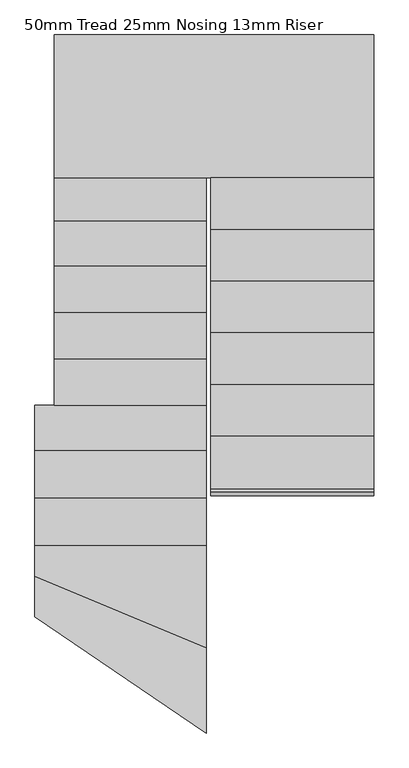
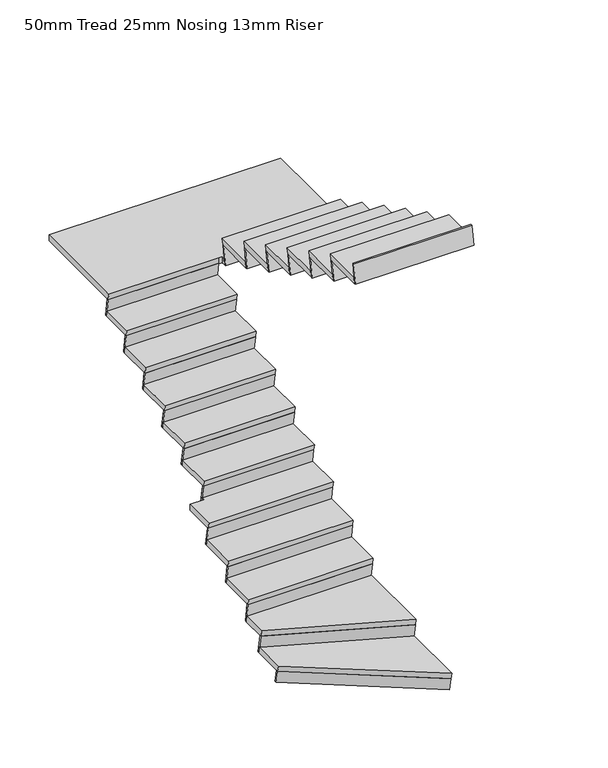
"""IFC4 building model written with IfcOpenShell, lengths in millimetres: stair flight geometry, 50mm Tread 25mm Nosing 13mm Riser."""

from ifc_helpers import new_model, si_unit, origin, place, context, project, spatial, faceted_brep, source, transform, mapped, element, save


def stair_flight_50mm_tread_25mm_nosing_13mm_riser_cc5dda1c(model_context):
    return source(origin(), model_context, "Body", "Brep", [
        faceted_brep([(-845.4255931, -4341.3934416, -2686.7555556), (-845.4255931, -4332.8197733, -2736.7555556), (-1855.0755931, -3910.3421138, -2736.7555556), (-1855.0755931, -3918.915782, -2686.7555556), (-1855.0755931, -4184.3438544, -2686.7555556), (-845.4255931, -4870.3265882, -2686.7555556), (-845.4255931, -4860.7646039, -2736.7555556), (-1855.0755931, -4174.7818701, -2736.7555556)], [[[0, 1, 2, 3]], [[3, 4, 5, 0]], [[2, 1, 6, 7]], [[4, 3, 2, 7]], [[0, 5, 6, 1]], [[5, 4, 7, 6]]]),
        faceted_brep([(-845.4255931, -4860.7646039, -2736.7555556), (-845.4255931, -4840.1022183, -2844.8), (-845.4255931, -4824.8021332, -2844.8), (-845.4255931, -4845.4645188, -2736.7555556), (-1855.0755931, -4174.7818701, -2736.7555556), (-1855.0755931, -4159.4817849, -2736.7555556), (-1855.0755931, -4138.8193993, -2844.8), (-1855.0755931, -4154.1194845, -2844.8)], [[[0, 1, 2, 3]], [[4, 5, 6, 7]], [[1, 0, 4, 7]], [[2, 1, 7, 6]], [[3, 2, 6, 5]], [[0, 3, 5, 4]]]),
        faceted_brep([(-845.4255931, -4359.9201861, -2578.7111111), (-845.4255931, -4332.8197733, -2736.7555556), (-845.4255931, -4319.1010879, -2736.7555556), (-845.4255931, -4346.2015007, -2578.7111111), (-1855.0755931, -3937.4425265, -2578.7111111), (-1855.0755931, -3923.7238411, -2578.7111111), (-1855.0755931, -3896.6234283, -2736.7555556), (-1855.0755931, -3910.3421138, -2736.7555556)], [[[0, 1, 2, 3]], [[4, 5, 6, 7]], [[1, 0, 4, 7]], [[2, 1, 7, 6]], [[3, 2, 6, 5]], [[0, 3, 5, 4]]]),
        faceted_brep([(-1855.0755931, -3740.2438544, -2528.7111111), (-1855.0755931, -3946.0161948, -2528.7111111), (-845.4255931, -4368.4938544, -2528.7111111), (-845.4255931, -3740.2438544, -2528.7111111), (-1855.0755931, -3732.3346868, -2578.7111111), (-845.4255931, -3732.3346868, -2578.7111111), (-845.4255931, -4359.9201861, -2578.7111111), (-1855.0755931, -3937.4425265, -2578.7111111)], [[[0, 1, 2, 3]], [[4, 5, 6, 7]], [[1, 0, 4, 7]], [[3, 2, 6, 5]], [[3, 5, 4, 0]], [[2, 1, 7, 6]]]),
        faceted_brep([(-845.4255931, -2112.6846868, -1472.4), (-845.4255931, -2087.6846868, -1630.4444444), (-845.4255931, -2075.0292657, -1630.4444444), (-845.4255931, -2100.0292657, -1472.4), (-1740.7755931, -2112.6846868, -1472.4), (-1740.7755931, -2100.0292657, -1472.4), (-1740.7755931, -2075.0292657, -1630.4444444), (-1740.7755931, -2087.6846868, -1630.4444444)], [[[0, 1, 2, 3]], [[4, 5, 6, 7]], [[1, 0, 4, 7]], [[2, 1, 7, 6]], [[3, 2, 6, 5]], [[0, 3, 5, 4]]]),
        faceted_brep([(-1740.7755931, -1828.8938544, -1422.4), (-1740.7755931, -2120.5938544, -1422.4), (-845.4255931, -2120.5938544, -1422.4), (-845.4255931, -1828.8938544, -1422.4), (-1740.7755931, -1820.9846868, -1472.4), (-845.4255931, -1820.9846868, -1472.4), (-845.4255931, -2112.6846868, -1472.4), (-1740.7755931, -2112.6846868, -1472.4)], [[[0, 1, 2, 3]], [[4, 5, 6, 7]], [[1, 0, 4, 7]], [[3, 2, 6, 5]], [[3, 5, 4, 0]], [[2, 1, 7, 6]]]),
        faceted_brep([(-845.4255931, -1845.9846868, -1314.3555556), (-845.4255931, -1820.9846868, -1472.4), (-845.4255931, -1808.3292657, -1472.4), (-845.4255931, -1833.3292657, -1314.3555556), (-1740.7755931, -1845.9846868, -1314.3555556), (-1740.7755931, -1833.3292657, -1314.3555556), (-1740.7755931, -1808.3292657, -1472.4), (-1740.7755931, -1820.9846868, -1472.4)], [[[0, 1, 2, 3]], [[4, 5, 6, 7]], [[1, 0, 4, 7]], [[2, 1, 7, 6]], [[3, 2, 6, 5]], [[0, 3, 5, 4]]]),
        faceted_brep([(-1740.7755931, -1577.8511592, -1264.3555556), (-1740.7755931, -1853.8938544, -1264.3555556), (-845.4255931, -1853.8938544, -1264.3555556), (-845.4255931, -1577.8511592, -1264.3555556), (-1740.7755931, -1569.9419915, -1314.3555556), (-845.4255931, -1569.9419915, -1314.3555556), (-845.4255931, -1845.9846868, -1314.3555556), (-1740.7755931, -1845.9846868, -1314.3555556)], [[[0, 1, 2, 3]], [[4, 5, 6, 7]], [[1, 0, 4, 7]], [[3, 2, 6, 5]], [[3, 5, 4, 0]], [[2, 1, 7, 6]]]),
        faceted_brep([(-845.4255931, -1594.9419915, -1156.3111111), (-845.4255931, -1569.9419915, -1314.3555556), (-845.4255931, -1557.2865704, -1314.3555556), (-845.4255931, -1582.2865704, -1156.3111111), (-1740.7755931, -1594.9419915, -1156.3111111), (-1740.7755931, -1582.2865704, -1156.3111111), (-1740.7755931, -1557.2865704, -1314.3555556), (-1740.7755931, -1569.9419915, -1314.3555556)], [[[0, 1, 2, 3]], [[4, 5, 6, 7]], [[1, 0, 4, 7]], [[2, 1, 7, 6]], [[3, 2, 6, 5]], [[0, 3, 5, 4]]]),
        faceted_brep([(138.8244069, -1627.8511592, -1106.3111111), (138.8244069, -761.6938544, -1106.3111111), (-1740.7755931, -761.6938544, -1106.3111111), (-1740.7755931, -1602.8511592, -1106.3111111), (-845.4255931, -1602.8511592, -1106.3111111), (-820.0255931, -1602.8511592, -1106.3111111), (-820.0255931, -1627.8511592, -1106.3111111), (-1740.7755931, -761.6938544, -1156.3111111), (138.8244069, -761.6938544, -1156.3111111), (138.8244069, -1635.7603268, -1156.3111111), (-820.0255931, -1635.7603268, -1156.3111111), (-820.0255931, -1602.8511592, -1156.3111111), (-845.4255931, -1602.8511592, -1156.3111111), (-845.4255931, -1594.9419915, -1156.3111111), (-1740.7755931, -1594.9419915, -1156.3111111)], [[[0, 1, 2, 3, 4, 5, 6]], [[7, 8, 9, 10, 11, 12, 13, 14]], [[1, 0, 9, 8]], [[5, 4, 12, 11]], [[6, 10, 9, 0]], [[13, 4, 3, 14]], [[2, 1, 8, 7]], [[3, 2, 7, 14]], [[6, 5, 11, 10]], [[4, 13, 12]]]),
        faceted_brep([(-845.4255931, -3757.3346868, -2420.6666667), (-845.4255931, -3732.3346868, -2578.7111111), (-845.4255931, -3719.6792657, -2578.7111111), (-845.4255931, -3744.6792657, -2420.6666667), (-1855.0755931, -3757.3346868, -2420.6666667), (-1855.0755931, -3744.6792657, -2420.6666667), (-1855.0755931, -3719.6792657, -2578.7111111), (-1855.0755931, -3732.3346868, -2578.7111111)], [[[0, 1, 2, 3]], [[4, 5, 6, 7]], [[1, 0, 4, 7]], [[2, 1, 7, 6]], [[3, 2, 6, 5]], [[0, 3, 5, 4]]]),
        faceted_brep([(-1855.0755931, -3460.8438544, -2370.6666667), (-1855.0755931, -3765.2438544, -2370.6666667), (-845.4255931, -3765.2438544, -2370.6666667), (-845.4255931, -3460.8438544, -2370.6666667), (-1855.0755931, -3452.9346868, -2420.6666667), (-845.4255931, -3452.9346868, -2420.6666667), (-845.4255931, -3757.3346868, -2420.6666667), (-1855.0755931, -3757.3346868, -2420.6666667)], [[[0, 1, 2, 3]], [[4, 5, 6, 7]], [[1, 0, 4, 7]], [[3, 2, 6, 5]], [[3, 5, 4, 0]], [[2, 1, 7, 6]]]),
        faceted_brep([(-845.4255931, -3477.9346868, -2262.6222222), (-845.4255931, -3452.9346868, -2420.6666667), (-845.4255931, -3440.2792657, -2420.6666667), (-845.4255931, -3465.2792657, -2262.6222222), (-1855.0755931, -3477.9346868, -2262.6222222), (-1855.0755931, -3465.2792657, -2262.6222222), (-1855.0755931, -3440.2792657, -2420.6666667), (-1855.0755931, -3452.9346868, -2420.6666667)], [[[0, 1, 2, 3]], [[4, 5, 6, 7]], [[1, 0, 4, 7]], [[2, 1, 7, 6]], [[3, 2, 6, 5]], [[0, 3, 5, 4]]]),
        faceted_brep([(-1855.0755931, -3181.4438544, -2212.6222222), (-1855.0755931, -3485.8438544, -2212.6222222), (-845.4255931, -3485.8438544, -2212.6222222), (-845.4255931, -3181.4438544, -2212.6222222), (-1855.0755931, -3173.5346868, -2262.6222222), (-845.4255931, -3173.5346868, -2262.6222222), (-845.4255931, -3477.9346868, -2262.6222222), (-1855.0755931, -3477.9346868, -2262.6222222)], [[[0, 1, 2, 3]], [[4, 5, 6, 7]], [[1, 0, 4, 7]], [[3, 2, 6, 5]], [[3, 5, 4, 0]], [[2, 1, 7, 6]]]),
        faceted_brep([(-845.4255931, -2931.8346868, -1946.5333333), (-845.4255931, -2906.8346868, -2104.5777778), (-845.4255931, -2894.1792657, -2104.5777778), (-845.4255931, -2919.1792657, -1946.5333333), (-1740.7755931, -2931.8346868, -1946.5333333), (-1740.7755931, -2919.1792657, -1946.5333333), (-1740.7755931, -2894.1792657, -2104.5777778), (-1740.7755931, -2906.8346868, -2104.5777778)], [[[0, 1, 2, 3]], [[4, 5, 6, 7]], [[1, 0, 4, 7]], [[2, 1, 7, 6]], [[3, 2, 6, 5]], [[0, 3, 5, 4]]]),
        faceted_brep([(-1740.7755931, -2641.6938544, -1896.5333333), (-1740.7755931, -2939.7438544, -1896.5333333), (-845.4255931, -2939.7438544, -1896.5333333), (-845.4255931, -2641.6938544, -1896.5333333), (-1740.7755931, -2633.7846868, -1946.5333333), (-845.4255931, -2633.7846868, -1946.5333333), (-845.4255931, -2931.8346868, -1946.5333333), (-1740.7755931, -2931.8346868, -1946.5333333)], [[[0, 1, 2, 3]], [[4, 5, 6, 7]], [[1, 0, 4, 7]], [[3, 2, 6, 5]], [[3, 5, 4, 0]], [[2, 1, 7, 6]]]),
        faceted_brep([(-845.4255931, -3198.5346868, -2104.5777778), (-845.4255931, -3173.5346868, -2262.6222222), (-845.4255931, -3160.8792657, -2262.6222222), (-845.4255931, -3185.8792657, -2104.5777778), (-1855.0755931, -3198.5346868, -2104.5777778), (-1855.0755931, -3185.8792657, -2104.5777778), (-1855.0755931, -3160.8792657, -2262.6222222), (-1855.0755931, -3173.5346868, -2262.6222222)], [[[0, 1, 2, 3]], [[4, 5, 6, 7]], [[1, 0, 4, 7]], [[2, 1, 7, 6]], [[3, 2, 6, 5]], [[0, 3, 5, 4]]]),
        faceted_brep([(-1740.7755931, -2914.7438544, -2054.5777778), (-1740.7755931, -2939.7438544, -2054.5777778), (-1855.0755931, -2939.7438544, -2054.5777778), (-1855.0755931, -3206.4438544, -2054.5777778), (-845.4255931, -3206.4438544, -2054.5777778), (-845.4255931, -2914.7438544, -2054.5777778), (-1855.0755931, -2939.7438544, -2104.5777778), (-1740.7755931, -2939.7438544, -2104.5777778), (-1740.7755931, -2906.8346868, -2104.5777778), (-845.4255931, -2906.8346868, -2104.5777778), (-845.4255931, -3198.5346868, -2104.5777778), (-1855.0755931, -3198.5346868, -2104.5777778)], [[[0, 1, 2, 3, 4, 5]], [[6, 7, 8, 9, 10, 11]], [[1, 0, 8, 7]], [[5, 4, 10, 9]], [[5, 9, 8, 0]], [[4, 3, 11, 10]], [[2, 1, 7, 6]], [[3, 2, 6, 11]]]),
        faceted_brep([(-845.4255931, -2658.7846868, -1788.4888889), (-845.4255931, -2633.7846868, -1946.5333333), (-845.4255931, -2621.1292657, -1946.5333333), (-845.4255931, -2646.1292657, -1788.4888889), (-1740.7755931, -2658.7846868, -1788.4888889), (-1740.7755931, -2646.1292657, -1788.4888889), (-1740.7755931, -2621.1292657, -1946.5333333), (-1740.7755931, -2633.7846868, -1946.5333333)], [[[0, 1, 2, 3]], [[4, 5, 6, 7]], [[1, 0, 4, 7]], [[2, 1, 7, 6]], [[3, 2, 6, 5]], [[0, 3, 5, 4]]]),
        faceted_brep([(-1740.7755931, -2368.6438544, -1738.4888889), (-1740.7755931, -2666.6938544, -1738.4888889), (-845.4255931, -2666.6938544, -1738.4888889), (-845.4255931, -2368.6438544, -1738.4888889), (-1740.7755931, -2360.7346868, -1788.4888889), (-845.4255931, -2360.7346868, -1788.4888889), (-845.4255931, -2658.7846868, -1788.4888889), (-1740.7755931, -2658.7846868, -1788.4888889)], [[[0, 1, 2, 3]], [[4, 5, 6, 7]], [[1, 0, 4, 7]], [[3, 2, 6, 5]], [[3, 5, 4, 0]], [[2, 1, 7, 6]]]),
        faceted_brep([(-845.4255931, -2385.7346868, -1630.4444444), (-845.4255931, -2360.7346868, -1788.4888889), (-845.4255931, -2348.0792657, -1788.4888889), (-845.4255931, -2373.0792657, -1630.4444444), (-1740.7755931, -2385.7346868, -1630.4444444), (-1740.7755931, -2373.0792657, -1630.4444444), (-1740.7755931, -2348.0792657, -1788.4888889), (-1740.7755931, -2360.7346868, -1788.4888889)], [[[0, 1, 2, 3]], [[4, 5, 6, 7]], [[1, 0, 4, 7]], [[2, 1, 7, 6]], [[3, 2, 6, 5]], [[0, 3, 5, 4]]]),
        faceted_brep([(-1740.7755931, -2095.5938544, -1580.4444444), (-1740.7755931, -2393.6438544, -1580.4444444), (-845.4255931, -2393.6438544, -1580.4444444), (-845.4255931, -2095.5938544, -1580.4444444), (-1740.7755931, -2087.6846868, -1630.4444444), (-845.4255931, -2087.6846868, -1630.4444444), (-845.4255931, -2385.7346868, -1630.4444444), (-1740.7755931, -2385.7346868, -1630.4444444)], [[[0, 1, 2, 3]], [[4, 5, 6, 7]], [[1, 0, 4, 7]], [[3, 2, 6, 5]], [[3, 5, 4, 0]], [[2, 1, 7, 6]]]),
        faceted_brep([(-820.0255931, -1610.7603268, -998.2666667), (-820.0255931, -1635.7603268, -1156.3111111), (-820.0255931, -1648.4157479, -1156.3111111), (-820.0255931, -1623.4157479, -998.2666667), (138.8244069, -1610.7603268, -998.2666667), (138.8244069, -1623.4157479, -998.2666667), (138.8244069, -1648.4157479, -1156.3111111), (138.8244069, -1635.7603268, -1156.3111111)], [[[0, 1, 2, 3]], [[4, 5, 6, 7]], [[1, 0, 4, 7]], [[2, 1, 7, 6]], [[3, 2, 6, 5]], [[0, 3, 5, 4]]]),
        faceted_brep([(138.8244069, -1932.158275, -948.2666667), (138.8244069, -1602.8511592, -948.2666667), (-820.0255931, -1602.8511592, -948.2666667), (-820.0255931, -1932.158275, -948.2666667), (138.8244069, -1940.0674426, -998.2666667), (-820.0255931, -1940.0674426, -998.2666667), (-820.0255931, -1610.7603268, -998.2666667), (138.8244069, -1610.7603268, -998.2666667)], [[[0, 1, 2, 3]], [[4, 5, 6, 7]], [[1, 0, 4, 7]], [[3, 2, 6, 5]], [[3, 5, 4, 0]], [[2, 1, 7, 6]]]),
        faceted_brep([(-820.0255931, -1915.0674426, -840.2222222), (-820.0255931, -1940.0674426, -998.2666667), (-820.0255931, -1952.7228637, -998.2666667), (-820.0255931, -1927.7228637, -840.2222222), (138.8244069, -1915.0674426, -840.2222222), (138.8244069, -1927.7228637, -840.2222222), (138.8244069, -1952.7228637, -998.2666667), (138.8244069, -1940.0674426, -998.2666667)], [[[0, 1, 2, 3]], [[4, 5, 6, 7]], [[1, 0, 4, 7]], [[2, 1, 7, 6]], [[3, 2, 6, 5]], [[0, 3, 5, 4]]]),
        faceted_brep([(138.8244069, -2236.4653909, -790.2222222), (138.8244069, -1907.158275, -790.2222222), (-820.0255931, -1907.158275, -790.2222222), (-820.0255931, -2236.4653909, -790.2222222), (138.8244069, -2244.3745585, -840.2222222), (-820.0255931, -2244.3745585, -840.2222222), (-820.0255931, -1915.0674426, -840.2222222), (138.8244069, -1915.0674426, -840.2222222)], [[[0, 1, 2, 3]], [[4, 5, 6, 7]], [[1, 0, 4, 7]], [[3, 2, 6, 5]], [[3, 5, 4, 0]], [[2, 1, 7, 6]]]),
        faceted_brep([(-820.0255931, -2219.3745585, -682.1777778), (-820.0255931, -2244.3745585, -840.2222222), (-820.0255931, -2257.0299796, -840.2222222), (-820.0255931, -2232.0299796, -682.1777778), (138.8244069, -2219.3745585, -682.1777778), (138.8244069, -2232.0299796, -682.1777778), (138.8244069, -2257.0299796, -840.2222222), (138.8244069, -2244.3745585, -840.2222222)], [[[0, 1, 2, 3]], [[4, 5, 6, 7]], [[1, 0, 4, 7]], [[2, 1, 7, 6]], [[3, 2, 6, 5]], [[0, 3, 5, 4]]]),
        faceted_brep([(138.8244069, -2540.7725068, -632.1777778), (138.8244069, -2211.4653909, -632.1777778), (-820.0255931, -2211.4653909, -632.1777778), (-820.0255931, -2540.7725068, -632.1777778), (138.8244069, -2548.6816744, -682.1777778), (-820.0255931, -2548.6816744, -682.1777778), (-820.0255931, -2219.3745585, -682.1777778), (138.8244069, -2219.3745585, -682.1777778)], [[[0, 1, 2, 3]], [[4, 5, 6, 7]], [[1, 0, 4, 7]], [[3, 2, 6, 5]], [[3, 5, 4, 0]], [[2, 1, 7, 6]]]),
        faceted_brep([(-820.0255931, -2523.6816744, -524.1333333), (-820.0255931, -2548.6816744, -682.1777778), (-820.0255931, -2561.3370955, -682.1777778), (-820.0255931, -2536.3370955, -524.1333333), (138.8244069, -2523.6816744, -524.1333333), (138.8244069, -2536.3370955, -524.1333333), (138.8244069, -2561.3370955, -682.1777778), (138.8244069, -2548.6816744, -682.1777778)], [[[0, 1, 2, 3]], [[4, 5, 6, 7]], [[1, 0, 4, 7]], [[2, 1, 7, 6]], [[3, 2, 6, 5]], [[0, 3, 5, 4]]]),
        faceted_brep([(138.8244069, -2845.0796226, -474.1333333), (138.8244069, -2515.7725068, -474.1333333), (-820.0255931, -2515.7725068, -474.1333333), (-820.0255931, -2845.0796226, -474.1333333), (138.8244069, -2852.9887902, -524.1333333), (-820.0255931, -2852.9887902, -524.1333333), (-820.0255931, -2523.6816744, -524.1333333), (138.8244069, -2523.6816744, -524.1333333)], [[[0, 1, 2, 3]], [[4, 5, 6, 7]], [[1, 0, 4, 7]], [[3, 2, 6, 5]], [[3, 5, 4, 0]], [[2, 1, 7, 6]]]),
        faceted_brep([(-820.0255931, -2827.9887902, -366.0888889), (-820.0255931, -2852.9887902, -524.1333333), (-820.0255931, -2865.6442113, -524.1333333), (-820.0255931, -2840.6442113, -366.0888889), (138.8244069, -2827.9887902, -366.0888889), (138.8244069, -2840.6442113, -366.0888889), (138.8244069, -2865.6442113, -524.1333333), (138.8244069, -2852.9887902, -524.1333333)], [[[0, 1, 2, 3]], [[4, 5, 6, 7]], [[1, 0, 4, 7]], [[2, 1, 7, 6]], [[3, 2, 6, 5]], [[0, 3, 5, 4]]]),
        faceted_brep([(138.8244069, -3149.3867385, -316.0888889), (138.8244069, -2820.0796226, -316.0888889), (-820.0255931, -2820.0796226, -316.0888889), (-820.0255931, -3149.3867385, -316.0888889), (138.8244069, -3157.2959061, -366.0888889), (-820.0255931, -3157.2959061, -366.0888889), (-820.0255931, -2827.9887902, -366.0888889), (138.8244069, -2827.9887902, -366.0888889)], [[[0, 1, 2, 3]], [[4, 5, 6, 7]], [[1, 0, 4, 7]], [[3, 2, 6, 5]], [[3, 5, 4, 0]], [[2, 1, 7, 6]]]),
        faceted_brep([(-820.0255931, -3132.2959061, -208.0444444), (-820.0255931, -3157.2959061, -366.0888889), (-820.0255931, -3169.9513272, -366.0888889), (-820.0255931, -3144.9513272, -208.0444444), (138.8244069, -3132.2959061, -208.0444444), (138.8244069, -3144.9513272, -208.0444444), (138.8244069, -3169.9513272, -366.0888889), (138.8244069, -3157.2959061, -366.0888889)], [[[0, 1, 2, 3]], [[4, 5, 6, 7]], [[1, 0, 4, 7]], [[2, 1, 7, 6]], [[3, 2, 6, 5]], [[0, 3, 5, 4]]]),
        faceted_brep([(138.8244069, -3453.6938544, -158.0444444), (138.8244069, -3124.3867385, -158.0444444), (-820.0255931, -3124.3867385, -158.0444444), (-820.0255931, -3453.6938544, -158.0444444), (138.8244069, -3461.603022, -208.0444444), (-820.0255931, -3461.603022, -208.0444444), (-820.0255931, -3132.2959061, -208.0444444), (138.8244069, -3132.2959061, -208.0444444)], [[[0, 1, 2, 3]], [[4, 5, 6, 7]], [[1, 0, 4, 7]], [[3, 2, 6, 5]], [[3, 5, 4, 0]], [[2, 1, 7, 6]]]),
        faceted_brep([(-820.0255931, -3436.603022, -50.0), (-820.0255931, -3461.603022, -208.0444444), (-820.0255931, -3474.2584431, -208.0444444), (-820.0255931, -3449.2584431, -50.0), (138.8244069, -3436.603022, -50.0), (138.8244069, -3449.2584431, -50.0), (138.8244069, -3474.2584431, -208.0444444), (138.8244069, -3461.603022, -208.0444444)], [[[0, 1, 2, 3]], [[4, 5, 6, 7]], [[1, 0, 4, 7]], [[2, 1, 7, 6]], [[3, 2, 6, 5]], [[0, 3, 5, 4]]]),
    ])


if __name__ == "__main__":
    model = new_model("IFC4")
    model_context = context("Model", 3, world=origin())
    ifc_project = project(units=[si_unit("LENGTHUNIT", "METRE", prefix="MILLI")], contexts=[model_context])
    site = spatial("IfcSite", under=ifc_project)
    building = spatial("IfcBuilding", under=site)
    placement = place(None, origin())
    stair_flight_50mm_tread_25mm_nosing_13mm_riser_shape = stair_flight_50mm_tread_25mm_nosing_13mm_riser_cc5dda1c(model_context)
    element("IfcStairFlight", 1, ObjectType="50mm Tread 25mm Nosing 13mm Riser", at=placement, inside=building, context=model_context, shape_type="MappedRepresentation", body=[
        mapped(stair_flight_50mm_tread_25mm_nosing_13mm_riser_shape, transform((0.0, 0.0, 0.0), x_axis=(1.0, 0.0, 0.0), y_axis=(0.0, 1.0, 0.0), z_axis=(0.0, 0.0, 1.0))),
    ])
    save(model, "model.ifc")
